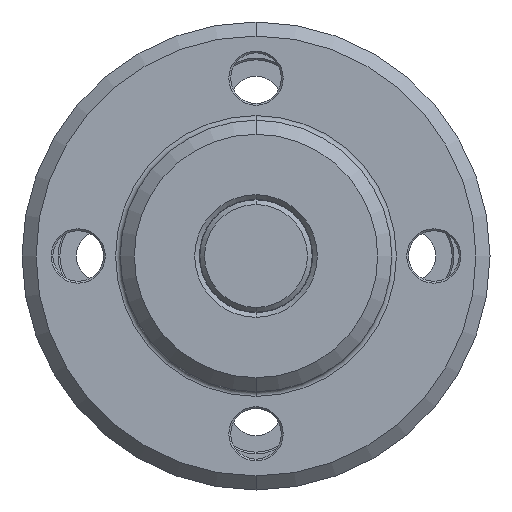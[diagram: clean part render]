
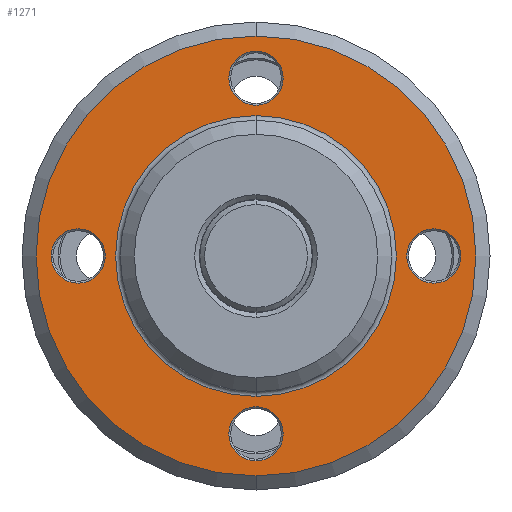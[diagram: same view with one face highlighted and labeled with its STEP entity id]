
A CAD part, front view. The second image highlights one B-rep face of the part: STEP entity #1271.
In plain terms, the highlighted planar face has unit normal (0, -1, 0).
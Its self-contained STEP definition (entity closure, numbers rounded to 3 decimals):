
#35 = VERTEX_POINT ( 'NONE', #4637 ) ;
#146 = DIRECTION ( 'NONE',  ( 0., 1., 0. ) ) ;
#157 = AXIS2_PLACEMENT_3D ( 'NONE', #603, #1110, #4785 ) ;
#196 = EDGE_CURVE ( 'NONE', #2212, #528, #6108, .T. ) ;
#233 = CARTESIAN_POINT ( 'NONE',  ( 0., -8., 19. ) ) ;
#264 = VERTEX_POINT ( 'NONE', #1194 ) ;
#325 = ORIENTED_EDGE ( 'NONE', *, *, #6486, .T. ) ;
#339 = ORIENTED_EDGE ( 'NONE', *, *, #4085, .T. ) ;
#430 = AXIS2_PLACEMENT_3D ( 'NONE', #5914, #6387, #2713 ) ;
#476 = CARTESIAN_POINT ( 'NONE',  ( 0., -8., 0. ) ) ;
#520 = DIRECTION ( 'NONE',  ( 0., 0., -1. ) ) ;
#528 = VERTEX_POINT ( 'NONE', #1506 ) ;
#603 = CARTESIAN_POINT ( 'NONE',  ( 0., -8., 0. ) ) ;
#741 = CARTESIAN_POINT ( 'NONE',  ( 0., -8., -21.9 ) ) ;
#752 = EDGE_CURVE ( 'NONE', #3687, #5015, #6768, .T. ) ;
#761 = ORIENTED_EDGE ( 'NONE', *, *, #6556, .T. ) ;
#784 = DIRECTION ( 'NONE',  ( 0., 0., -1. ) ) ;
#844 = FACE_BOUND ( 'NONE', #1387, .T. ) ;
#885 = VERTEX_POINT ( 'NONE', #2787 ) ;
#912 = CARTESIAN_POINT ( 'NONE',  ( 0., -8., 15. ) ) ;
#1005 = EDGE_CURVE ( 'NONE', #5015, #3687, #3050, .T. ) ;
#1029 = AXIS2_PLACEMENT_3D ( 'NONE', #6010, #3917, #784 ) ;
#1091 = DIRECTION ( 'NONE',  ( 0., 0., -1. ) ) ;
#1110 = DIRECTION ( 'NONE',  ( 0., 1., 0. ) ) ;
#1181 = ORIENTED_EDGE ( 'NONE', *, *, #5732, .T. ) ;
#1194 = CARTESIAN_POINT ( 'NONE',  ( -19., -8., -2.9 ) ) ;
#1271 = ADVANCED_FACE ( 'NONE', ( #5781, #3645, #5945, #2237, #4534, #844 ), #1685, .T. ) ;
#1368 = VERTEX_POINT ( 'NONE', #741 ) ;
#1387 = EDGE_LOOP ( 'NONE', ( #3485, #325 ) ) ;
#1395 = DIRECTION ( 'NONE',  ( 0., 0., -1. ) ) ;
#1506 = CARTESIAN_POINT ( 'NONE',  ( 0., -8., -23.5 ) ) ;
#1521 = DIRECTION ( 'NONE',  ( 0., 1., 0. ) ) ;
#1569 = VERTEX_POINT ( 'NONE', #3977 ) ;
#1685 = PLANE ( 'NONE',  #5988 ) ;
#1901 = CARTESIAN_POINT ( 'NONE',  ( 0., -8., -19. ) ) ;
#1922 = CIRCLE ( 'NONE', #2783, 2.9 ) ;
#1951 = ORIENTED_EDGE ( 'NONE', *, *, #196, .T. ) ;
#1970 = CARTESIAN_POINT ( 'NONE',  ( 0., -8., -16.1 ) ) ;
#2022 = CIRCLE ( 'NONE', #1029, 2.9 ) ;
#2040 = DIRECTION ( 'NONE',  ( 0., 0., -1. ) ) ;
#2056 = EDGE_LOOP ( 'NONE', ( #3589, #761 ) ) ;
#2212 = VERTEX_POINT ( 'NONE', #3851 ) ;
#2228 = DIRECTION ( 'NONE',  ( 0., 0., -1. ) ) ;
#2237 = FACE_BOUND ( 'NONE', #4967, .T. ) ;
#2266 = CIRCLE ( 'NONE', #5868, 2.9 ) ;
#2408 = CIRCLE ( 'NONE', #5361, 2.9 ) ;
#2438 = ORIENTED_EDGE ( 'NONE', *, *, #4599, .T. ) ;
#2454 = EDGE_LOOP ( 'NONE', ( #1951, #2438 ) ) ;
#2530 = ORIENTED_EDGE ( 'NONE', *, *, #3426, .T. ) ;
#2581 = DIRECTION ( 'NONE',  ( 0., 0., -1. ) ) ;
#2608 = DIRECTION ( 'NONE',  ( 0., 1., 0. ) ) ;
#2713 = DIRECTION ( 'NONE',  ( 0., 0., -1. ) ) ;
#2719 = DIRECTION ( 'NONE',  ( 0., 1., 0. ) ) ;
#2783 = AXIS2_PLACEMENT_3D ( 'NONE', #1901, #3506, #5572 ) ;
#2787 = CARTESIAN_POINT ( 'NONE',  ( 0., -8., 16.1 ) ) ;
#2861 = VERTEX_POINT ( 'NONE', #6611 ) ;
#2965 = AXIS2_PLACEMENT_3D ( 'NONE', #476, #3655, #2040 ) ;
#3010 = VERTEX_POINT ( 'NONE', #1970 ) ;
#3050 = CIRCLE ( 'NONE', #4572, 15. ) ;
#3162 = CIRCLE ( 'NONE', #4290, 2.9 ) ;
#3241 = CIRCLE ( 'NONE', #3770, 2.9 ) ;
#3426 = EDGE_CURVE ( 'NONE', #2861, #885, #2022, .T. ) ;
#3485 = ORIENTED_EDGE ( 'NONE', *, *, #5375, .T. ) ;
#3506 = DIRECTION ( 'NONE',  ( 0., 1., 0. ) ) ;
#3589 = ORIENTED_EDGE ( 'NONE', *, *, #5494, .T. ) ;
#3602 = CARTESIAN_POINT ( 'NONE',  ( 0., -8., -15. ) ) ;
#3637 = AXIS2_PLACEMENT_3D ( 'NONE', #5878, #2719, #2228 ) ;
#3645 = FACE_BOUND ( 'NONE', #2056, .T. ) ;
#3655 = DIRECTION ( 'NONE',  ( 0., -1., 0. ) ) ;
#3687 = VERTEX_POINT ( 'NONE', #3602 ) ;
#3768 = DIRECTION ( 'NONE',  ( 0., -1., 0. ) ) ;
#3770 = AXIS2_PLACEMENT_3D ( 'NONE', #5853, #146, #1091 ) ;
#3851 = CARTESIAN_POINT ( 'NONE',  ( 0., -8., 23.5 ) ) ;
#3912 = EDGE_LOOP ( 'NONE', ( #1181, #5201 ) ) ;
#3917 = DIRECTION ( 'NONE',  ( 0., 1., 0. ) ) ;
#3977 = CARTESIAN_POINT ( 'NONE',  ( 19., -8., 2.9 ) ) ;
#4085 = EDGE_CURVE ( 'NONE', #885, #2861, #3162, .T. ) ;
#4148 = CARTESIAN_POINT ( 'NONE',  ( -19., -8., 0. ) ) ;
#4221 = EDGE_CURVE ( 'NONE', #3010, #1368, #2408, .T. ) ;
#4290 = AXIS2_PLACEMENT_3D ( 'NONE', #233, #5942, #4954 ) ;
#4411 = CIRCLE ( 'NONE', #430, 23.5 ) ;
#4444 = ORIENTED_EDGE ( 'NONE', *, *, #1005, .T. ) ;
#4517 = VERTEX_POINT ( 'NONE', #5826 ) ;
#4534 = FACE_OUTER_BOUND ( 'NONE', #2454, .T. ) ;
#4559 = CARTESIAN_POINT ( 'NONE',  ( 0., -8., 0. ) ) ;
#4572 = AXIS2_PLACEMENT_3D ( 'NONE', #4559, #6034, #1395 ) ;
#4599 = EDGE_CURVE ( 'NONE', #528, #2212, #4411, .T. ) ;
#4637 = CARTESIAN_POINT ( 'NONE',  ( 19., -8., -2.9 ) ) ;
#4785 = DIRECTION ( 'NONE',  ( 0., 0., -1. ) ) ;
#4828 = CARTESIAN_POINT ( 'NONE',  ( 14.5, -8., 0. ) ) ;
#4954 = DIRECTION ( 'NONE',  ( 0., 0., -1. ) ) ;
#4967 = EDGE_LOOP ( 'NONE', ( #5629, #4444 ) ) ;
#5015 = VERTEX_POINT ( 'NONE', #912 ) ;
#5087 = DIRECTION ( 'NONE',  ( 0., 1., 0. ) ) ;
#5159 = CIRCLE ( 'NONE', #6111, 2.9 ) ;
#5201 = ORIENTED_EDGE ( 'NONE', *, *, #4221, .T. ) ;
#5342 = DIRECTION ( 'NONE',  ( 0., 0., -1. ) ) ;
#5361 = AXIS2_PLACEMENT_3D ( 'NONE', #6084, #5087, #5553 ) ;
#5375 = EDGE_CURVE ( 'NONE', #35, #1569, #3241, .T. ) ;
#5494 = EDGE_CURVE ( 'NONE', #264, #4517, #6606, .T. ) ;
#5553 = DIRECTION ( 'NONE',  ( 0., 0., -1. ) ) ;
#5572 = DIRECTION ( 'NONE',  ( 0., 0., -1. ) ) ;
#5629 = ORIENTED_EDGE ( 'NONE', *, *, #752, .T. ) ;
#5732 = EDGE_CURVE ( 'NONE', #1368, #3010, #1922, .T. ) ;
#5781 = FACE_BOUND ( 'NONE', #3912, .T. ) ;
#5826 = CARTESIAN_POINT ( 'NONE',  ( -19., -8., 2.9 ) ) ;
#5853 = CARTESIAN_POINT ( 'NONE',  ( 19., -8., 0. ) ) ;
#5868 = AXIS2_PLACEMENT_3D ( 'NONE', #4148, #2608, #520 ) ;
#5878 = CARTESIAN_POINT ( 'NONE',  ( -19., -8., 0. ) ) ;
#5914 = CARTESIAN_POINT ( 'NONE',  ( 0., -8., 0. ) ) ;
#5942 = DIRECTION ( 'NONE',  ( 0., 1., 0. ) ) ;
#5945 = FACE_BOUND ( 'NONE', #5977, .T. ) ;
#5977 = EDGE_LOOP ( 'NONE', ( #339, #2530 ) ) ;
#5988 = AXIS2_PLACEMENT_3D ( 'NONE', #4828, #3768, #5342 ) ;
#6010 = CARTESIAN_POINT ( 'NONE',  ( 0., -8., 19. ) ) ;
#6034 = DIRECTION ( 'NONE',  ( 0., 1., 0. ) ) ;
#6084 = CARTESIAN_POINT ( 'NONE',  ( 0., -8., -19. ) ) ;
#6108 = CIRCLE ( 'NONE', #2965, 23.5 ) ;
#6111 = AXIS2_PLACEMENT_3D ( 'NONE', #6701, #1521, #2581 ) ;
#6387 = DIRECTION ( 'NONE',  ( 0., -1., 0. ) ) ;
#6486 = EDGE_CURVE ( 'NONE', #1569, #35, #5159, .T. ) ;
#6556 = EDGE_CURVE ( 'NONE', #4517, #264, #2266, .T. ) ;
#6606 = CIRCLE ( 'NONE', #3637, 2.9 ) ;
#6611 = CARTESIAN_POINT ( 'NONE',  ( 0., -8., 21.9 ) ) ;
#6701 = CARTESIAN_POINT ( 'NONE',  ( 19., -8., 0. ) ) ;
#6768 = CIRCLE ( 'NONE', #157, 15. ) ;
